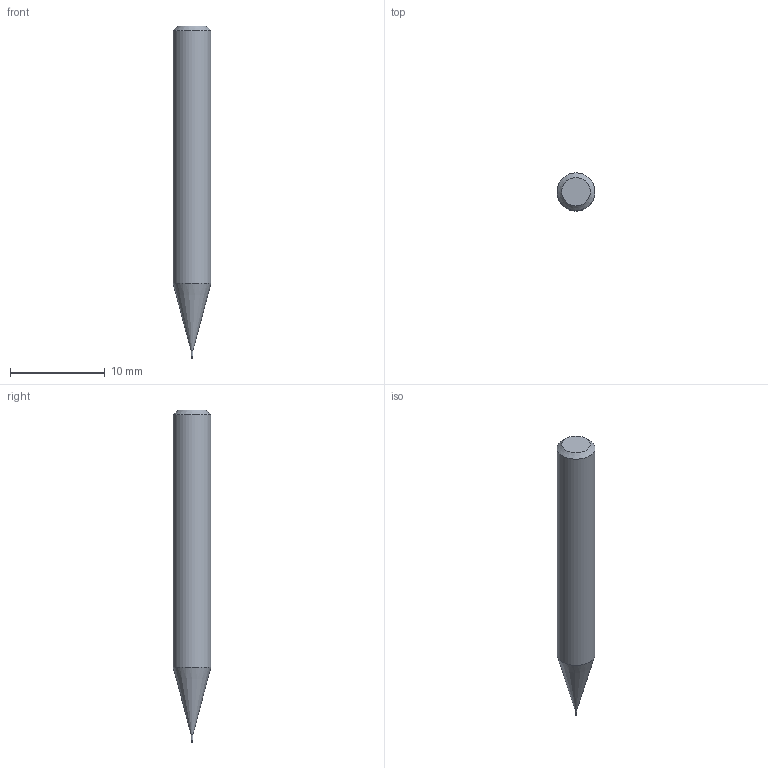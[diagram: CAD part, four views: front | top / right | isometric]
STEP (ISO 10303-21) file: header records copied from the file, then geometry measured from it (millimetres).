
FILE_DESCRIPTION((''),'2;1');
FILE_NAME('C:\Users\nsx150\AppData\Local\Temp\Mastercam 2021\80JYEHYUML\TEMP.step','2022-03-29T14:34:44',(''),(''),'STEP Write','Mastercam 2021 ... CNC Software, Inc.','');
FILE_SCHEMA(('AUTOMOTIVE_DESIGN'));
Length unit declared in the file: millimetre
Products named in the file (1): None
Bounding box: 4 x 4 x 35 mm (x, y, z)
Volume: 370.7 mm3; surface area: 398.3 mm2
Topology: 2 solids, 2 shells, 10 faces, 14 edges, 8 vertices
Faces by surface type: plane 4, cylinder 3, cone 2, torus 1
Full cylindrical faces by diameter (mm): 0.18 x1, 0.2 x1, 4 x1
Entity records: 232 total; most frequent: DIRECTION 40, CARTESIAN_POINT 28, AXIS2_PLACEMENT_3D 20, ORIENTED_EDGE 16, EDGE_LOOP 16, STYLED_ITEM 13, ADVANCED_FACE 10, FACE_BOUND 10
